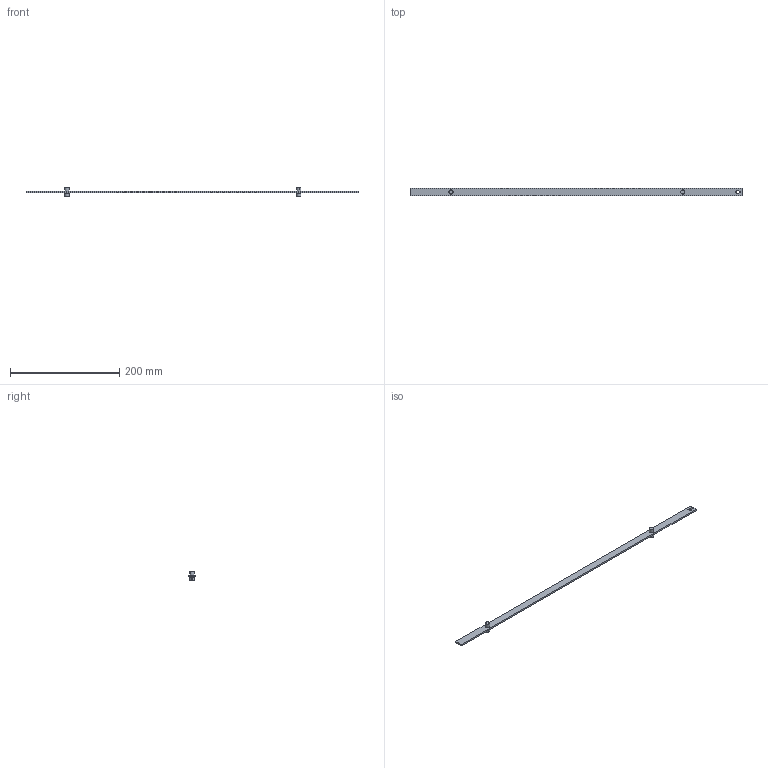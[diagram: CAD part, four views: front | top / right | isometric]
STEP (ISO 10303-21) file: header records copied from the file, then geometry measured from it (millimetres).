
FILE_DESCRIPTION (( 'STEP AP214' ), '1' );
FILE_NAME ('PP28-601.STEP', '2016-09-08T07:56:36', ( '' ), ( '' ), 'SwSTEP 2.0', 'SolidWorks 2015', '' );
FILE_SCHEMA (( 'AUTOMOTIVE_DESIGN' ));
Length unit declared in the file: millimetre
Products named in the file (4): 1C.PD.B.Z.X.Y.01_PP28-601; PP28-601; 1C.PDB.02.02.00_A; 1C.PDB.02.01.00_A
Assembly tree (5 placements, depth 2):
  PP28-601
    1C.PD.B.Z.X.Y.01_PP28-601
    1C.PDB.02.01.00_A  x2
    1C.PDB.02.02.00_A  x2
Bounding box: 608.5 x 14 x 18.1 mm (x, y, z)
Volume: 26938.9 mm3; surface area: 22350.6 mm2
Topology: 5 solids, 5 shells, 78 faces, 168 edges, 102 vertices
Faces by surface type: cylinder 30, plane 24, cone 24
Entity records: 1514 total; most frequent: DIRECTION 264, CARTESIAN_POINT 229, ORIENTED_EDGE 212, EDGE_CURVE 106, AXIS2_PLACEMENT_3D 102, VERTEX_POINT 67, VECTOR 60, LINE 60
